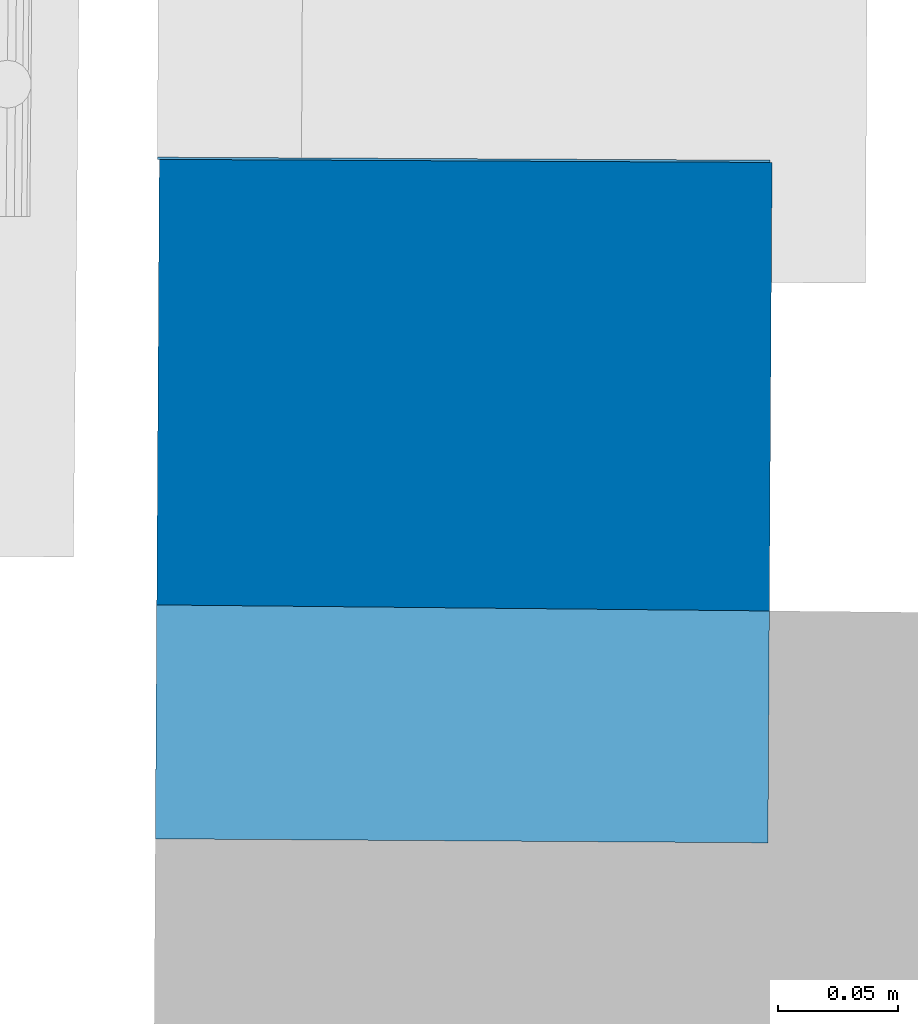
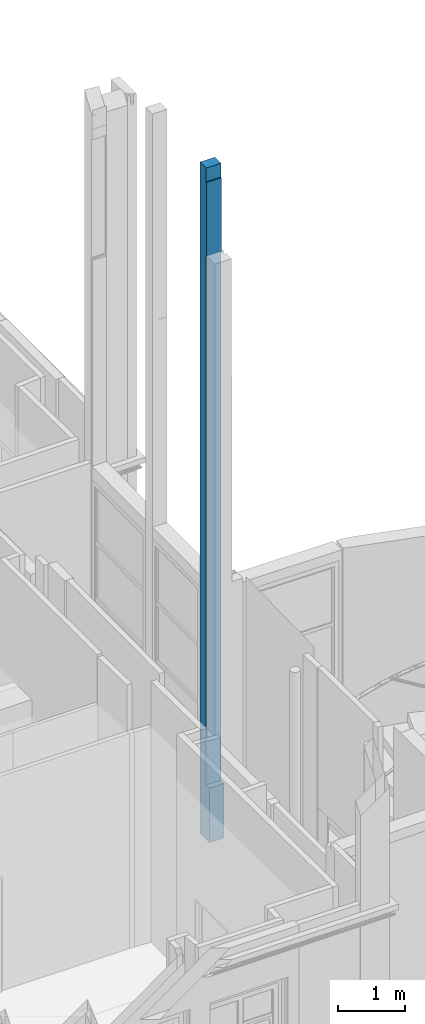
# One storey, part 59 of 97: 1 wall.
"""IFC2X3 building model written with IfcOpenShell, lengths in centimetres."""

from ifc_helpers import new_model, entity, si_unit, converted_unit, direction, frame, origin, origin_with_axes, place, context, subcontext, project, spatial, faceted_brep, material, layer, layer_set, layer_usage, type_object, element, save


model = new_model("IFC2X3")

# Units and contexts
model_context = context("Model", 3, precision=0.0001, world=origin(), true_north=direction((0.225632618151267, 0.974212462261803, 0.0)))
body_context = subcontext(model_context, "Body", "Model", "MODEL_VIEW")
ifc_project = project(units=[si_unit("LENGTHUNIT", "METRE", prefix="CENTI"), si_unit("AREAUNIT", "SQUARE_METRE", prefix="CENTI"), si_unit("VOLUMEUNIT", "CUBIC_METRE", prefix="CENTI"), converted_unit("PLANEANGLEUNIT", "DEGREE", entity("IfcRatioMeasure", 0.0174532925), si_unit("PLANEANGLEUNIT", "RADIAN"), dimensions=[0, 0, 0, 0, 0, 0, 0])], contexts=[model_context])

# Site, building, storey
site_placement = place(None, origin_with_axes())
site = spatial("IfcSite", under=ifc_project, at=site_placement, Name="Default Site", CompositionType="ELEMENT")
building_placement = place(site_placement, origin_with_axes())
building = spatial("IfcBuilding", under=site, at=building_placement, Name="Default Building", CompositionType="ELEMENT")
storey_placement = place(building_placement, origin_with_axes())
storey = spatial("IfcBuildingStorey", under=building, at=storey_placement, Name="Rez-de-chaussée", CompositionType="ELEMENT", Elevation=0.0)

# Wall
ifc_material = material(Name="<aucun>")
ifc_layer = layer(ifc_material, 25.5)
ifc_layer_set = layer_set([ifc_layer], Name="default")
ifc_layer_usage = layer_usage(ifc_layer_set, "AXIS2", "POSITIVE", -12.75)
wall_type = type_object("IfcWallType", Name="default 255", PredefinedType="NOTDEFINED", material=ifc_layer_set)
wall_placement = place(storey_placement, frame((1083.43885968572, -196.803385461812, 0.0128503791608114), z_axis=(0.0, 0.0, 1.0), x_axis=(0.00591520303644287, 0.999982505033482, 0.0)))
element("IfcWall", 1, at=wall_placement, inside=storey, type_object=wall_type, material=ifc_layer_usage, Name="Enveloppe 725558", context=body_context, shape_type="Brep", body=[
    faceted_brep([(19.9999962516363, 12.7500251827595, -4.62607738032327e-10), (-8.28123345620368, 12.7500251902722, -4.62607738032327e-10), (-8.28123345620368, 12.7500251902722, 77.7825061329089), (1.45648812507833, 12.7500251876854, 77.7825061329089), (19.9999962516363, 12.7500251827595, 77.7825061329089), (20.0928441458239, 12.8336408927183, -4.62607738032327e-10), (19.999919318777, 12.833557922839, -4.62607738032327e-10), (19.999919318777, 12.833557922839, 77.7825061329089), (20.0928441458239, 12.8336408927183, 77.7825061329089), (1.45648812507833, 12.7500091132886, 77.7825061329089), (-8.28123345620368, 12.7500091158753, 77.7825061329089), (-8.28123345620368, 12.7500091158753, 99.9871496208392), (1.45648812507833, 12.7500091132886, 99.9871496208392), (20.0928441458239, 12.8336408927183, 841.897511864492), (20.0928441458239, 12.8336408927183, 827.782464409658), (19.999919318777, 12.833557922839, 827.782464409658), (19.999919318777, 12.833557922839, 841.897511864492), (20.0772279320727, 12.8336269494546, 841.897511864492), (19.9999962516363, 12.7500251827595, 841.897511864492), (19.9999962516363, 12.7500251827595, 827.782464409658), (19.9999962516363, 12.7500251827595, 472.782493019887), (19.9999962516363, 12.7500251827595, 451.661706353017), (19.9999962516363, 12.7500251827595, 119.987154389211), (1.45648812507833, 12.7500251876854, 99.9871496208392), (1.45648812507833, 12.7500251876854, 465.782523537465), (1.45648812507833, 12.7500251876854, 472.782493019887), (1.45648812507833, 12.7500251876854, 841.897511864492), (20.0772280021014, 12.8335485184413, 848.897481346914), (20.0772280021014, 12.8335485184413, 841.897511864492), (19.9999193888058, 12.8334794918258, 841.897511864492), (19.9999193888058, 12.8334794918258, 848.897481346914), (19.9929153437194, 12.7499832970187, 851.897550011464), (19.9929153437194, 12.7499832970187, 848.897481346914), (19.9999962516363, 12.7499832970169, 841.897511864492), (1.45648812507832, 12.7499833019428, 841.897511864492), (1.45648812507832, 12.7499833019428, 851.897550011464), (20.0772279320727, 12.8336269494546, 848.897481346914), (20.0928441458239, 12.8336408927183, 848.897481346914), (20.0772280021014, 12.8335485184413, 1071.83811702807), (20.0772280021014, 12.8335485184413, 1070.57478466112), (19.9999193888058, 12.8334794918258, 1070.57478466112), (19.9999193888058, 12.8334794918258, 1071.83811702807), (19.9999962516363, 12.7500251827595, 1071.83811702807), (19.9999962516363, 12.7500251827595, 1070.57478466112), (19.9929153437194, 12.7500251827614, 851.897550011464), (1.45648812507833, 12.7500251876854, 851.897550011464), (1.45648812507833, 12.7500251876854, 1068.89755764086), (1.45648812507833, 12.7500251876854, 1071.83811702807), (1.45648812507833, 12.7500091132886, 1068.89755764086), (-5.01683863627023e-07, 12.7500091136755, 1068.89755764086), (-5.01683863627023e-07, 12.7500091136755, 1071.83811702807), (1.45648812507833, 12.7500091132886, 1071.83811702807), (19.9999193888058, 12.8334794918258, 1087.90504970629), (20.0772280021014, 12.8335485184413, 1087.90504970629), (-5.01683859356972e-07, 12.7500251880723, 1071.83811702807), (-5.01683859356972e-07, 12.7500251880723, 1087.90504970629), (19.9999962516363, 12.7500251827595, 1087.90504970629), (-5.01683859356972e-07, 12.7500251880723, 1090.89748897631), (19.9999962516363, 12.7500251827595, 1090.89748897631), (19.9999962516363, 12.7500251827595, 1088.89753856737), (19.9999193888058, 12.8334794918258, 1088.89753856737), (20.0772280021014, 12.8335485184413, 1088.89753856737), (-5.01683859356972e-07, 12.7500251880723, 1202.48911418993), (1.71845498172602, 12.7500251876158, 1202.48911418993), (19.9772271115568, 12.7500251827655, 1202.48911418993), (19.9999962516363, 12.7500251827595, 1202.48911418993), (1.71845498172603, 12.750032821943, 1202.48911418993), (-5.01683857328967e-07, 12.7500328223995, 1202.48911418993), (-5.01683857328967e-07, 12.7500328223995, 1203.59995403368), (1.71845498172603, 12.750032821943, 1203.59995403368), (19.9772271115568, 12.7499858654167, 1202.48911418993), (1.71845498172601, 12.749985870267, 1202.48911418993), (1.71845498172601, 12.749985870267, 1203.59995403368), (1.71845498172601, 12.749985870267, 1207.29410686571), (19.9772271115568, 12.7499858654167, 1207.29410686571), (19.9772271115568, 12.7499858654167, 1203.59995403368), (19.9999962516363, 12.7499858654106, 1203.59995403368), (19.9999962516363, 12.7499858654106, 1202.48911418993), (20.0767021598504, 13.3335655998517, 1203.59995403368), (19.976707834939, 13.333476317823, 1203.59995403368), (19.976707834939, 13.333476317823, 1207.29410686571), (20.0767021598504, 13.3335655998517, 1207.29410686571), (1.71845498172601, 12.749985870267, 1223.49865474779), (1.71845498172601, 12.749985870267, 1228.78887691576), (19.9772271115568, 12.7499858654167, 1228.78887691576), (19.976707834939, 13.333476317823, 1228.78887691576), (20.0767021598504, 13.3335655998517, 1228.78887691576), (20.0928441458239, 12.8336408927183, 472.782493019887), (20.0928441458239, 12.8336408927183, 451.661706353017), (19.999919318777, 12.833557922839, 451.661706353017), (19.999919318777, 12.833557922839, 472.782493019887), (20.0928441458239, 12.8336408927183, 119.987154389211), (19.999919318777, 12.833557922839, 119.987154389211), (-8.296597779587, -12.7499658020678, -4.62607738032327e-10), (0.708820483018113, -12.74996580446, -4.62607738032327e-10), (0.708820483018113, -12.74996580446, 77.7825061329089), (-8.296597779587, -12.7499658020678, 77.7825061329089), (0.708820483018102, -12.75000731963, -4.62607738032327e-10), (20.0156746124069, -12.7500073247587, -4.62607738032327e-10), (20.0156746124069, -12.7500073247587, 77.7825061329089), (1.3558401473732, -12.7500073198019, 77.7825061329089), (0.708820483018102, -12.75000731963, 77.7825061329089), (0.703396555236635, -12.7500394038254, 99.9871496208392), (-8.29659777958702, -12.7500394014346, 99.9871496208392), (-8.29659777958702, -12.7500394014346, 77.7825061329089), (0.703396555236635, -12.7500394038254, 77.7825061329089), (1.3558401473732, -12.7500073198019, 99.9871496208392), (0.703396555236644, -12.7500073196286, 99.9871496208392), (20.0156101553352, -12.666510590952, 841.897511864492), (20.0156101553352, -12.666510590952, 827.782464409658), (20.0156101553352, -12.666510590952, 472.782493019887), (20.0156101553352, -12.666510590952, 451.661706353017), (20.0156101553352, -12.666510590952, 119.987154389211), (20.0156101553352, -12.666510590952, 101.871085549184), (20.0156101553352, -12.666510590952, 77.7825061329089), (20.0226910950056, -12.6665042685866, 101.871085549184), (20.1156159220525, -12.6664212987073, 101.871085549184), (20.1156159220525, -12.6664212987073, 119.987154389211), (20.0226910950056, -12.6665042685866, 119.987154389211), (20.0226910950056, -12.6665042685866, 451.661706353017), (20.1156159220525, -12.6664212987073, 451.661706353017), (20.1156159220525, -12.6664212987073, 472.782493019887), (20.0226910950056, -12.6665042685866, 472.782493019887), (20.0226910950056, -12.6665042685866, 827.782464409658), (20.1156159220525, -12.6664212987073, 827.782464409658), (20.1156159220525, -12.6664212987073, 841.897511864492), (20.0999873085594, -12.6664352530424, 841.897511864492), (1.3558401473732, -12.7499947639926, 77.7825061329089), (20.0156746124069, -12.7499947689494, 77.7825061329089), (20.0156746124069, -12.7499947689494, 841.897511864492), (19.9999863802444, -12.7499947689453, 841.897511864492), (1.3558401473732, -12.7499947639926, 841.897511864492), (1.3558401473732, -12.7499947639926, 472.782493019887), (1.3558401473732, -12.7499947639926, 465.782523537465), (1.3558401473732, -12.7499947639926, 99.9871496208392), (19.9999863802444, -12.7499947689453, 848.897481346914), (19.9999863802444, -12.7499947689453, 851.897550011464), (1.3558401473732, -12.7499947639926, 851.897550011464), (20.0156101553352, -12.666510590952, 848.897481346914), (20.0999873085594, -12.6664352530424, 848.897481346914), (19.9999934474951, -12.6665075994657, 851.897550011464), (19.9999934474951, -12.6665075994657, 848.897481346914), (20.0156101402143, -12.6664936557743, 848.897481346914), (20.0156101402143, -12.6664936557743, 851.897550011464), (19.9999863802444, -12.7499556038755, 841.897511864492), (20.0156746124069, -12.7499556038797, 841.897511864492), (20.0156746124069, -12.7499556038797, 848.897481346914), (19.9999863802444, -12.7499556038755, 848.897481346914), (20.099987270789, -12.666392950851, 841.897511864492), (20.1156158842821, -12.6663789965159, 841.897511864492), (20.1156158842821, -12.6663789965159, 848.897481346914), (20.099987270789, -12.666392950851, 848.897481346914), (19.9999863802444, -12.7499947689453, 1071.83811702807), (1.3558401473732, -12.7499947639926, 1071.83811702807), (1.3558401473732, -12.7499947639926, 1068.89755764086), (19.9999934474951, -12.6665075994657, 1071.83811702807), (20.0156101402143, -12.6664936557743, 1070.57478466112), (20.0999872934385, -12.6664183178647, 1070.57478466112), (20.0999872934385, -12.6664183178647, 1071.83811702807), (1.54764461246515e-06, -12.7500039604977, 1068.89755764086), (1.3558401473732, -12.7500039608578, 1068.89755764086), (1.3558401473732, -12.7500039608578, 1071.83811702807), (1.54764461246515e-06, -12.7500039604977, 1071.83811702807), (19.9999863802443, -12.7500039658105, 1071.83811702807), (19.9999863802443, -12.7500039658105, 1087.90504970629), (1.54764461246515e-06, -12.7500039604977, 1087.90504970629), (20.0999872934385, -12.6664183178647, 1087.90504970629), (19.9999934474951, -12.6665075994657, 1087.90504970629), (19.9999863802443, -12.7500039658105, 1090.89748897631), (1.54764461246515e-06, -12.7500039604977, 1090.89748897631), (20.0999872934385, -12.6664183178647, 1088.89753856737), (19.9999934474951, -12.6665075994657, 1088.89753856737), (19.9999863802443, -12.7500039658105, 1202.48911418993), (1.47805588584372, -12.7500039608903, 1202.48911418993), (1.54764461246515e-06, -12.7500039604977, 1202.48911418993), (1.47805588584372, -12.7500039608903, 1203.59995403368), (1.54764461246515e-06, -12.7500039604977, 1203.59995403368), (1.47805588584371, -12.7500347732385, 1202.48911418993), (20.0042784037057, -12.7500347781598, 1202.48911418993), (20.0042784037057, -12.7500347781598, 1207.29410686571), (1.47805588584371, -12.7500347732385, 1207.29410686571), (1.47805588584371, -12.7500347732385, 1203.59995403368), (20.0042133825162, -12.6664826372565, 1203.59995403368), (20.0999157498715, -12.6663971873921, 1203.59995403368), (20.0999157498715, -12.6663971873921, 1207.29410686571), (20.0042133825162, -12.6664826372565, 1207.29410686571), (20.0042784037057, -12.7500347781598, 1228.78887691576), (1.47805588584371, -12.7500347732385, 1228.78887691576), (1.47805588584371, -12.7500347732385, 1223.49865474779), (20.0999157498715, -12.6663971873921, 1228.78887691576), (19.9999219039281, -12.6664864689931, 1228.78887691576), (-8.29118306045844, -3.75004716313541, -4.62607738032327e-10), (0.703398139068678, -3.74996204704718, -4.62607738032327e-10), (20.0156746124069, -12.7499581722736, -4.62607738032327e-10), (20.0147231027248, -3.7499818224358, -4.62607738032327e-10), (20.0156091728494, -12.6665105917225, -4.62607738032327e-10), (20.0156091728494, -12.6665105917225, 77.7825061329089), (20.0156746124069, -12.7499581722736, 77.7825061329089), (20.0975705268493, 7.53849030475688, -4.62607738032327e-10), (-8.28434056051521, 7.5961505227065, -4.62607738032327e-10), (-8.28123345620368, 12.7500104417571, -4.62607738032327e-10), (19.9999193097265, 12.8335680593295, -4.62607738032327e-10), (20.0928426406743, 12.8336408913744, -4.62607738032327e-10), (20.0928426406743, 12.8336408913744, 77.7825061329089), (20.0975705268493, 7.53849030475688, 77.7825061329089), (20.0981994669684, 6.83362100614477, -4.62607738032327e-10), (20.005274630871, 6.83354817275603, -4.62607738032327e-10), (20.0981994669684, 6.83362100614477, 77.7825061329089), (20.0975701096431, 7.53849030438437, -4.62607738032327e-10), (20.0975701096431, 7.53849030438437, 77.7825061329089), (-8.296597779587, -12.7499658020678, 99.9871496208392), (-8.28123345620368, 12.7500104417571, 99.9871496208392), (20.10764850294, -3.75000435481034, 841.897511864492), (20.10764850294, -3.75000435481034, 827.782464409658), (20.0975693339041, 7.53849030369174, 827.782464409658), (20.0975693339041, 7.53849030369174, 841.897511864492), (20.0156091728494, -12.6665105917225, 101.871085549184), (20.0156091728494, -12.6665105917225, 119.987154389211), (20.0156091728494, -12.6665105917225, 451.661706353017), (20.0156091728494, -12.6665105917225, 472.782493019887), (20.0156091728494, -12.6665105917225, 827.782464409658), (20.0156091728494, -12.6665105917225, 841.897511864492), (20.0156746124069, -12.7499581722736, 841.897511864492), (20.1156158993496, -12.6663958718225, 841.897511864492), (20.1156158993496, -12.6663958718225, 827.782464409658), (20.1076547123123, -3.75000434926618, 827.782464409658), (20.1076547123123, -3.75000434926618, 841.897511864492), (20.0975705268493, 7.53849030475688, 841.897511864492), (20.0975705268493, 7.53849030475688, 827.782464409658), (20.0928426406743, 12.8336408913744, 827.782464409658), (20.0928426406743, 12.8336408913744, 841.897511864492), (20.0975705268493, 7.53849030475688, 472.782493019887), (20.0975705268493, 7.53849030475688, 451.661706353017), (20.0928426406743, 12.8336408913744, 451.661706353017), (20.0928426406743, 12.8336408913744, 472.782493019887), (20.10764850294, -3.75000435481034, 472.782493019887), (20.10764850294, -3.75000435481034, 451.661706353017), (20.0975693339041, 7.53849030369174, 451.661706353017), (20.0975693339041, 7.53849030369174, 472.782493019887), (20.1156158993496, -12.6663958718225, 472.782493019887), (20.1156158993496, -12.6663958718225, 451.661706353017), (20.1076547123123, -3.75000434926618, 451.661706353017), (20.1076547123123, -3.75000434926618, 472.782493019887), (1.45648393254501, 12.7500091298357, 841.897511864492), (1.45648393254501, 12.7500091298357, 472.782493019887), (1.45648393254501, 12.7500091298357, 465.782523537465), (1.45648393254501, 12.7500091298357, 99.9871496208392), (1.45648812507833, 12.7500091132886, 841.897511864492), (1.35584433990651, -12.7499947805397, 841.897511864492), (1.35584433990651, -12.7499947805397, 851.897550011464), (1.45648812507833, 12.7500091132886, 851.897550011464), (19.9999934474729, -12.7499556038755, 851.897550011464), (19.9999934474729, -12.7499556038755, 848.897481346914), (20.0156746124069, -12.7499581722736, 848.897481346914), (20.0156091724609, -12.6665105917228, 841.897511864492), (20.0156091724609, -12.6665105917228, 848.897481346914), (20.10764850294, -3.75000435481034, 848.897481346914), (20.1156096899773, -12.6663958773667, 848.897481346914), (20.1156096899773, -12.6663958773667, 841.897511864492), (20.0975705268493, 7.53849030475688, 848.897481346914), (20.1076496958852, -3.7500043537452, 848.897481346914), (20.1076496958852, -3.7500043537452, 841.897511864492), (20.0975720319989, 7.53849030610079, 848.897481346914), (20.0975720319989, 7.53849030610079, 841.897511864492), (1.45648393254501, 12.7500091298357, 1068.89755764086), (1.45648393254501, 12.7500091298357, 851.897550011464), (19.9999863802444, -12.7499556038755, 851.897550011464), (19.9999863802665, -12.6665075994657, 851.897550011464), (19.9999863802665, -12.6665075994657, 1071.83811702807), (19.9999863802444, -12.7499556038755, 1071.83811702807), (20.099987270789, -12.666392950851, 1071.83811702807), (20.099987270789, -12.666392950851, 1070.57478466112), (20.0920260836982, -3.75000136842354, 1070.57478466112), (20.0920260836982, -3.75000136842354, 1071.83811702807), (20.0819538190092, 7.53849329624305, 1071.83811702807), (20.0819538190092, 7.53849329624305, 1070.57478466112), (20.0772260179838, 12.8335485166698, 1070.57478466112), (20.0772260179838, 12.8335485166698, 1071.83811702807), (20.0920317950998, -3.750001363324, 1071.83811702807), (20.0920317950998, -3.750001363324, 1070.57478466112), (20.0819526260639, 7.53849329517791, 1070.57478466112), (20.0819526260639, 7.53849329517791, 1071.83811702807), (-5.01683872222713e-07, 12.7499767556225, 1068.89755764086), (-5.0845776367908e-07, -12.7500039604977, 1068.89755764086), (-5.0845776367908e-07, -12.7500039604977, 1071.83811702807), (-5.01683872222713e-07, 12.7499767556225, 1071.83811702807), (-5.0845776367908e-07, -12.7500039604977, 1087.90504970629), (-5.01683872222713e-07, 12.7499767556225, 1087.90504970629), (19.9999863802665, -12.6665075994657, 1087.90504970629), (19.9999863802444, -12.7499556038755, 1087.90504970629), (20.0920317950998, -3.750001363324, 1087.90504970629), (20.0999929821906, -12.6663929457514, 1087.90504970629), (20.0999929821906, -12.6663929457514, 1071.83811702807), (20.0819558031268, 7.53849329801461, 1087.90504970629), (20.0819558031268, 7.53849329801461, 1071.83811702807), (20.0819538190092, 7.53849329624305, 1087.90504970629), (20.0920329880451, -3.75000136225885, 1087.90504970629), (20.0920329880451, -3.75000136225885, 1071.83811702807), (19.9999863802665, -12.6665075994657, 1088.89753856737), (19.9999863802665, -12.6665075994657, 1090.89748897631), (19.9999863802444, -12.7499556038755, 1090.89748897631), (-5.0845776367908e-07, -12.7500039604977, 1090.89748897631), (-5.01683872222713e-07, 12.7499767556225, 1090.89748897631), (19.9999962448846, -12.6665075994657, 1090.89748897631), (19.9999962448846, -12.6665075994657, 1088.89753856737), (20.099987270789, -12.666392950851, 1088.89753856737), (20.0920317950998, -3.750001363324, 1088.89753856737), (20.0819538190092, 7.53849329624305, 1088.89753856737), (19.9999193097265, 12.8335680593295, 1088.89753856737), (20.0999929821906, -12.6663929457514, 1088.89753856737), (20.0819558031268, 7.53849329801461, 1088.89753856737), (20.0920329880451, -3.75000136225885, 1088.89753856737), (-5.0845776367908e-07, -12.7500039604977, 1202.48911418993), (-5.01683872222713e-07, 12.7499767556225, 1202.48911418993), (19.9999863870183, 12.7500251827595, 1090.89748897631), (19.9999863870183, 12.7500251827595, 1202.48911418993), (19.9999863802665, -12.6665075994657, 1202.48911418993), (19.9999863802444, -12.7499556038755, 1202.48911418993), (-5.01683872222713e-07, 12.7499767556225, 1203.59995403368), (-5.0845776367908e-07, -12.7500039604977, 1203.59995403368), (20.0042784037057, -12.7500255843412, 1202.48911418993), (20.0042129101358, -12.6664826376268, 1202.48911418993), (20.0042129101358, -12.6664826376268, 1203.59995403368), (20.0042129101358, -12.6664826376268, 1207.29410686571), (20.0042784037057, -12.7500255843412, 1207.29410686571), (19.9999962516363, 12.7500251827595, 1203.59995403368), (20.0042159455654, -12.666482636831, 1203.59995403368), (20.0042159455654, -12.666482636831, 1202.48911418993), (1.71845460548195, 12.75003282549, 1207.29410686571), (1.71845460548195, 12.75003282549, 1203.59995403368), (19.9767077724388, 13.3335463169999, 1203.59995403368), (20.0999157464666, -12.6663933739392, 1203.59995403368), (20.0767011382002, 13.3335655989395, 1203.59995403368), (20.0767011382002, 13.3335655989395, 1207.29410686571), (20.0999157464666, -12.6663933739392, 1207.29410686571), (20.0042784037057, -12.7500255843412, 1228.78887691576), (19.9999219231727, -12.6665080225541, 1228.78887691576), (1.71845498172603, 12.750032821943, 1228.78887691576), (1.71830054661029, 12.7338191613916, 1228.78887691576), (19.9999186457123, -12.6665081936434, 1207.29410686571), (19.9999186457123, -12.6665081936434, 1228.78887691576), (1.71845339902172, 12.7500328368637, 1228.78887691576), (1.71845339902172, 12.7500328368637, 1223.49865474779), (1.71830054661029, 12.7338191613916, 1223.49865474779), (1.71830175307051, 12.7338191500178, 1228.78887691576), (1.71830175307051, 12.7338191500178, 1223.49865474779), (1.71845460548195, 12.75003282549, 1223.49865474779), (19.9767077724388, 13.3335463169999, 1228.78887691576), (20.0999157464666, -12.6663933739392, 1228.78887691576), (20.0767011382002, 13.3335655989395, 1228.78887691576), (20.0981994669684, 6.83362100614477, 101.871085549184), (20.0052746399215, 6.83353803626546, 101.871085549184), (20.0052746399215, 6.83353803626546, -4.62607738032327e-10), (20.0226910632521, -12.6664687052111, 101.871085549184), (20.0226910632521, -12.6664687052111, 77.7825061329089), (20.0226910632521, -12.6664687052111, -4.62607738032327e-10), (20.0147297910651, -3.74998181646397, -4.62607738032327e-10), (20.0052800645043, 6.83354817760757, -4.62607738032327e-10), (20.0052800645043, 6.83354817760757, 101.871085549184), (20.1156158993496, -12.6663958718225, 101.871085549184), (20.005274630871, 6.83354817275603, 101.871085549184), (20.0226899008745, -12.666468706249, 451.661706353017), (20.0226899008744, -12.666468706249, 119.987154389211), (19.9999193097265, 12.8335680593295, 119.987154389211), (20.0929216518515, 12.7500026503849, 119.987154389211), (20.0226910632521, -12.6664687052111, 119.987154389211), (20.1156158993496, -12.6663958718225, 119.987154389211), (20.0929216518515, 12.7500026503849, 451.661706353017), (19.9999193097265, 12.8335680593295, 451.661706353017), (20.0226910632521, -12.6664687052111, 451.661706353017), (20.0226899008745, -12.666468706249, 827.782464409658), (20.0226899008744, -12.666468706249, 472.782493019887), (20.0929216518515, 12.7500026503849, 472.782493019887), (19.9999193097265, 12.8335680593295, 472.782493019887), (20.0226910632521, -12.6664687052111, 472.782493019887), (19.9999193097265, 12.8335680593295, 827.782464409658), (20.0929216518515, 12.7500026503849, 827.782464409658), (20.0226910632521, -12.6664687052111, 827.782464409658), (20.0156101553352, -12.666510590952, 1070.57478466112), (20.0156101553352, -12.666510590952, 851.897550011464), (19.992916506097, 12.7499832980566, 848.897481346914), (19.992916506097, 12.7499832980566, 851.897550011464), (19.992916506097, 12.7499832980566, 1070.57478466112), (19.9928384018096, 12.8335261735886, 848.897481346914), (20.0772930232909, 12.7500055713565, 1070.57478466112), (19.9928384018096, 12.8335261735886, 1070.57478466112), (19.9929153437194, 12.7499832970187, 1070.57478466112), (20.0999867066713, -12.6662975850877, 848.897481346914), (20.1156153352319, -12.6663005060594, 848.897481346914), (20.1076547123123, -3.75000434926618, 101.871085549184), (20.1076547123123, -3.75000434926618, 119.987154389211), (20.10764850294, -3.75000435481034, 119.987154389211), (20.10764850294, -3.75000435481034, 101.871085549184), (20.0981986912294, 6.83362100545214, 101.871085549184), (20.0981986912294, 6.83362100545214, 77.7825061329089), (20.0975693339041, 7.53849030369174, 77.7825061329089), (20.0975693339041, 7.53849030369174, 119.987154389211), (20.0975705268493, 7.53849030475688, 119.987154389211), (20.0928426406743, 12.8336408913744, 119.987154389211), (-8.29660539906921, -12.7499657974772, -4.62607738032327e-10), (-8.29660539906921, -12.7499657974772, 77.7825061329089), (-8.29118306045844, -3.75004716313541, 77.7825061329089), (-8.28433859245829, 7.59615052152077, -4.62607738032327e-10), (-8.28433859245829, 7.59615052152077, 77.7825061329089), (-8.28123345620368, 12.7500104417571, 77.7825061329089), (-8.29117650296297, -3.75004716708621, -4.62607738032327e-10), (-8.29117650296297, -3.75004716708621, 77.7825061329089), (-8.28434056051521, 7.5961505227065, 77.7825061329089), (-8.29117453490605, -3.75004716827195, 77.7825061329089), (-8.29659687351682, -12.7499658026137, 77.7825061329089), (-8.29659687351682, -12.7499658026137, 99.9871496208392), (19.9999939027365, 12.7500251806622, -4.62607738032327e-10), (19.9999939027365, 12.7500251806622, 77.7825061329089), (19.9999193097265, 12.8335680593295, 77.7825061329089), (19.9999939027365, 12.7500251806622, 827.782464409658), (19.9999939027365, 12.7500251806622, 841.897511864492), (19.9999193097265, 12.8335680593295, 841.897511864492), (19.9999216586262, 12.8335680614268, 119.987154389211), (19.9999216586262, 12.8335680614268, 77.7825061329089), (19.9999216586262, 12.8335680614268, 472.782493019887), (19.9999216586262, 12.8335680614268, 451.661706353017), (19.9928384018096, 12.8335261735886, 841.897511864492), (19.9929129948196, 12.7499832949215, 841.897511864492), (19.9929129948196, 12.7499832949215, 848.897481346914), (19.9929129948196, 12.7499832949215, 1070.57478466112), (19.9929129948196, 12.7499832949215, 1071.83811702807), (19.9928384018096, 12.8335261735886, 1071.83811702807), (19.9999193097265, 12.8335680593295, 1071.83811702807), (19.9999939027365, 12.7500251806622, 1071.83811702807), (19.9999939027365, 12.7500251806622, 1087.90504970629), (19.9999193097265, 12.8335680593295, 1087.90504970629), (19.9999939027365, 12.7500251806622, 1088.89753856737), (19.9772288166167, 12.7499858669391, 1203.59995403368), (19.9772288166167, 12.7499858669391, 1207.29410686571), (19.9767077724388, 13.3335463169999, 1207.29410686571), (19.9772288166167, 12.7499858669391, 1228.78887691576)], [[[0, 1, 2, 3, 4]], [[5, 6, 7, 8]], [[9, 10, 11, 12]], [[13, 14, 15, 16, 17]], [[18, 19, 20, 21, 22, 4, 3, 23, 24, 25, 26]], [[27, 28, 29, 30]], [[31, 32, 33, 34, 35]], [[13, 17, 36, 37]], [[38, 39, 40, 41]], [[42, 43, 44, 45, 46, 47]], [[48, 49, 50, 51]], [[38, 41, 52, 53]], [[42, 47, 54, 55, 56]], [[56, 55, 57, 58, 59]], [[53, 52, 60, 61]], [[58, 57, 62, 63, 64, 65]], [[66, 67, 68, 69]], [[70, 71, 72, 73, 74, 75]], [[75, 76, 77, 70]], [[78, 79, 80, 81]], [[74, 73, 82, 83, 84]], [[81, 80, 85, 86]], [[87, 88, 89, 90]], [[91, 8, 7, 92]], [[93, 94, 95, 96]], [[97, 98, 99, 100, 101]], [[102, 103, 104, 105]], [[101, 100, 106, 107]], [[108, 109, 110, 111, 112, 113, 114, 115, 116, 117, 118, 119, 120, 121, 122, 123, 124, 125, 126]], [[127, 128, 129, 130, 131, 132, 133, 134]], [[131, 130, 135, 136, 137]], [[138, 108, 126, 139]], [[140, 141, 142, 143]], [[144, 145, 146, 147]], [[148, 149, 150, 151]], [[137, 136, 152, 153, 154]], [[155, 140, 143, 156, 157, 158]], [[159, 160, 161, 162]], [[162, 161, 163, 164, 165]], [[155, 158, 166, 167]], [[165, 164, 168, 169]], [[167, 166, 170, 171]], [[169, 168, 172, 173, 174]], [[174, 173, 175, 176]], [[177, 178, 179, 180, 181]], [[182, 183, 184, 185]], [[180, 179, 186, 187, 188]], [[185, 184, 189, 190]], [[93, 191, 192, 97]], [[193, 97, 192, 194]], [[193, 195, 196, 197]], [[5, 198, 199, 200, 0, 201]], [[198, 202, 203, 204]], [[194, 192, 191, 199, 198, 205, 206]], [[207, 205, 208, 209]], [[210, 134, 12, 211]], [[212, 213, 214, 215]], [[197, 196, 216, 217, 218, 219, 220, 221, 222]], [[223, 224, 225, 226]], [[227, 228, 229, 230]], [[231, 232, 233, 234]], [[235, 236, 237, 238]], [[239, 240, 241, 242]], [[131, 243, 244, 132]], [[132, 244, 245, 133]], [[133, 245, 246, 134]], [[247, 248, 249, 250]], [[140, 251, 252, 141]], [[138, 141, 147, 253]], [[222, 254, 255, 253]], [[256, 257, 258, 212]], [[259, 260, 261, 227]], [[37, 262, 263, 13]], [[154, 264, 265, 137]], [[266, 267, 268, 269]], [[270, 271, 272, 273]], [[274, 275, 276, 277]], [[278, 279, 280, 281]], [[282, 48, 154, 159]], [[282, 283, 284, 285]], [[285, 284, 286, 287]], [[269, 268, 288, 289]], [[290, 291, 292, 278]], [[53, 293, 294, 38]], [[295, 296, 297, 274]], [[289, 288, 298, 299, 300]], [[287, 286, 301, 302]], [[58, 303, 304, 59]], [[305, 306, 307, 61, 308, 59, 171]], [[306, 309, 291, 290]], [[61, 310, 293, 53]], [[307, 311, 296, 295]], [[302, 301, 312, 313]], [[300, 299, 314, 315, 316, 317]], [[176, 181, 69, 318]], [[313, 312, 319, 318]], [[320, 321, 322, 323, 324]], [[325, 326, 327, 65]], [[180, 328, 329, 181]], [[182, 325, 75, 330, 78, 331]], [[331, 332, 333, 334]], [[187, 335, 336, 84, 337, 338]], [[324, 339, 340, 335]], [[338, 341, 342, 343]], [[187, 344, 345, 188]], [[188, 346, 328, 180]], [[86, 347, 84, 336, 348]], [[334, 333, 349, 348]], [[350, 351, 352, 205]], [[353, 354, 355, 356, 357, 358]], [[359, 353, 360, 350]], [[21, 361, 362, 22]], [[91, 363, 22, 364]], [[364, 22, 365, 366]], [[367, 21, 368, 88]], [[240, 369, 21, 367]], [[19, 370, 371, 20]], [[372, 87, 373, 20]], [[20, 374, 239, 372]], [[19, 375, 14, 376]], [[376, 224, 377, 19]], [[378, 379, 138, 380, 381, 382]], [[27, 383, 32, 138, 151]], [[384, 43, 385, 39]], [[271, 378, 386, 384]], [[387, 388, 37, 27]], [[366, 359, 389, 390]], [[391, 392, 393, 394, 395, 396]], [[397, 204, 203, 398]], [[191, 399, 400, 401]], [[200, 402, 403, 404]], [[199, 405, 406, 407]], [[404, 403, 408, 409, 410, 211]], [[201, 411, 412, 413]], [[375, 414, 415, 416]], [[4, 22, 417, 418]], [[21, 20, 419, 420]], [[421, 422, 423, 383]], [[385, 424, 425, 426]], [[427, 428, 429, 430]], [[430, 429, 431, 308]], [[330, 432, 433, 434]], [[434, 433, 435, 347]]]),
])

save(model, "model.ifc")
